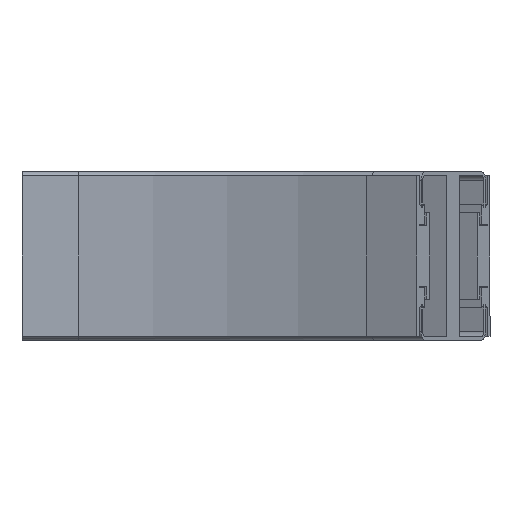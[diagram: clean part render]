
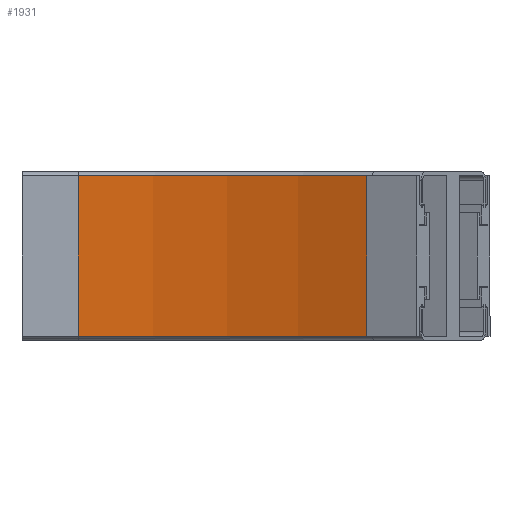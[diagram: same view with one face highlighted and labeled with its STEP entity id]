
A CAD part, front view. The second image highlights one B-rep face of the part: STEP entity #1931.
In plain terms, the highlighted cylindrical face has radius 443.5 mm (diameter 887 mm), a partial arc.
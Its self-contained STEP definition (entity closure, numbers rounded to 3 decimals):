
#152 = ORIENTED_EDGE ( 'NONE', *, *, #1702, .T. ) ;
#202 = AXIS2_PLACEMENT_3D ( 'NONE', #3151, #3639, #2268 ) ;
#503 = CYLINDRICAL_SURFACE ( 'NONE', #2794, 443.5 ) ;
#544 = VERTEX_POINT ( 'NONE', #1252 ) ;
#574 = DIRECTION ( 'NONE',  ( 0., 0., 1. ) ) ;
#609 = ORIENTED_EDGE ( 'NONE', *, *, #2967, .T. ) ;
#622 = DIRECTION ( 'NONE',  ( 0., 0., -1. ) ) ;
#632 = DIRECTION ( 'NONE',  ( 0., 0., 1. ) ) ;
#713 = EDGE_CURVE ( 'NONE', #544, #3395, #5161, .T. ) ;
#833 = CARTESIAN_POINT ( 'NONE',  ( 244.786, -106.611, -57.15 ) ) ;
#952 = CARTESIAN_POINT ( 'NONE',  ( 40., -56.5, 0. ) ) ;
#1252 = CARTESIAN_POINT ( 'NONE',  ( 244.786, -106.611, -57.15 ) ) ;
#1696 = VECTOR ( 'NONE', #622, 1000. ) ;
#1702 = EDGE_CURVE ( 'NONE', #544, #1781, #3380, .T. ) ;
#1756 = EDGE_LOOP ( 'NONE', ( #609, #4104, #152, #1995 ) ) ;
#1781 = VERTEX_POINT ( 'NONE', #3121 ) ;
#1856 = AXIS2_PLACEMENT_3D ( 'NONE', #3323, #4616, #2808 ) ;
#1931 = ADVANCED_FACE ( 'NONE', ( #1938 ), #503, .F. ) ;
#1938 = FACE_OUTER_BOUND ( 'NONE', #1756, .T. ) ;
#1995 = ORIENTED_EDGE ( 'NONE', *, *, #2848, .T. ) ;
#2268 = DIRECTION ( 'NONE',  ( 1., 0., 0. ) ) ;
#2793 = CARTESIAN_POINT ( 'NONE',  ( 40., -500., 0. ) ) ;
#2794 = AXIS2_PLACEMENT_3D ( 'NONE', #2793, #632, #4113 ) ;
#2808 = DIRECTION ( 'NONE',  ( 1., 0., 0. ) ) ;
#2848 = EDGE_CURVE ( 'NONE', #1781, #3333, #4850, .T. ) ;
#2967 = EDGE_CURVE ( 'NONE', #3333, #3395, #4712, .T. ) ;
#3121 = CARTESIAN_POINT ( 'NONE',  ( 244.786, -106.611, 57.15 ) ) ;
#3151 = CARTESIAN_POINT ( 'NONE',  ( 40., -500., 57.15 ) ) ;
#3240 = VECTOR ( 'NONE', #574, 1000. ) ;
#3323 = CARTESIAN_POINT ( 'NONE',  ( 40., -500., -57.15 ) ) ;
#3333 = VERTEX_POINT ( 'NONE', #4856 ) ;
#3380 = LINE ( 'NONE', #833, #3240 ) ;
#3395 = VERTEX_POINT ( 'NONE', #5309 ) ;
#3639 = DIRECTION ( 'NONE',  ( 0., 0., 1. ) ) ;
#4104 = ORIENTED_EDGE ( 'NONE', *, *, #713, .F. ) ;
#4113 = DIRECTION ( 'NONE',  ( 1., 0., 0. ) ) ;
#4616 = DIRECTION ( 'NONE',  ( 0., 0., 1. ) ) ;
#4712 = LINE ( 'NONE', #952, #1696 ) ;
#4850 = CIRCLE ( 'NONE', #202, 443.5 ) ;
#4856 = CARTESIAN_POINT ( 'NONE',  ( 40., -56.5, 57.15 ) ) ;
#5161 = CIRCLE ( 'NONE', #1856, 443.5 ) ;
#5309 = CARTESIAN_POINT ( 'NONE',  ( 40., -56.5, -57.15 ) ) ;
